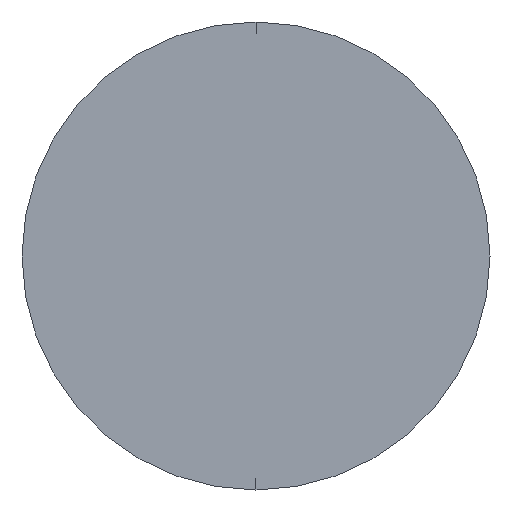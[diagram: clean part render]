
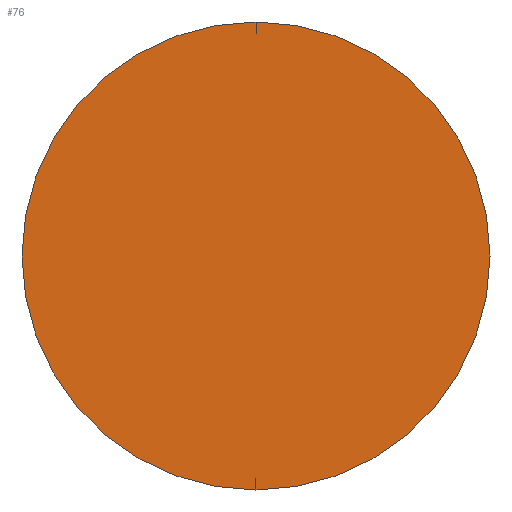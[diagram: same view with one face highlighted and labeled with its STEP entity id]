
A CAD part, left-side view. The second image highlights one B-rep face of the part: STEP entity #76.
In plain terms, the highlighted planar face has unit normal (-1, 0, 0).
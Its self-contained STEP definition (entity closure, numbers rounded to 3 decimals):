
#3 = AXIS2_PLACEMENT_3D ( 'NONE', #35, #149, #101 ) ;
#4 = DIRECTION ( 'NONE',  ( 0., 0., -1. ) ) ;
#12 = AXIS2_PLACEMENT_3D ( 'NONE', #143, #272, #4 ) ;
#15 = PLANE ( 'NONE',  #12 ) ;
#24 = AXIS2_PLACEMENT_3D ( 'NONE', #250, #146, #167 ) ;
#35 = CARTESIAN_POINT ( 'NONE',  ( 0., 0., 0. ) ) ;
#76 = ADVANCED_FACE ( 'NONE', ( #239 ), #15, .F. ) ;
#78 = VERTEX_POINT ( 'NONE', #133 ) ;
#87 = EDGE_CURVE ( 'NONE', #78, #211, #256, .T. ) ;
#101 = DIRECTION ( 'NONE',  ( 0., 0., 1. ) ) ;
#127 = EDGE_CURVE ( 'NONE', #211, #78, #228, .T. ) ;
#133 = CARTESIAN_POINT ( 'NONE',  ( 0., 0., -1.1 ) ) ;
#143 = CARTESIAN_POINT ( 'NONE',  ( 0., 0., 0. ) ) ;
#146 = DIRECTION ( 'NONE',  ( -1., 0., 0. ) ) ;
#149 = DIRECTION ( 'NONE',  ( -1., 0., 0. ) ) ;
#167 = DIRECTION ( 'NONE',  ( 0., 0., 1. ) ) ;
#211 = VERTEX_POINT ( 'NONE', #216 ) ;
#216 = CARTESIAN_POINT ( 'NONE',  ( 0., 0., 1.1 ) ) ;
#226 = EDGE_LOOP ( 'NONE', ( #247, #240 ) ) ;
#228 = CIRCLE ( 'NONE', #3, 1.1 ) ;
#239 = FACE_OUTER_BOUND ( 'NONE', #226, .T. ) ;
#240 = ORIENTED_EDGE ( 'NONE', *, *, #87, .T. ) ;
#247 = ORIENTED_EDGE ( 'NONE', *, *, #127, .T. ) ;
#250 = CARTESIAN_POINT ( 'NONE',  ( 0., 0., 0. ) ) ;
#256 = CIRCLE ( 'NONE', #24, 1.1 ) ;
#272 = DIRECTION ( 'NONE',  ( 1., 0., 0. ) ) ;
